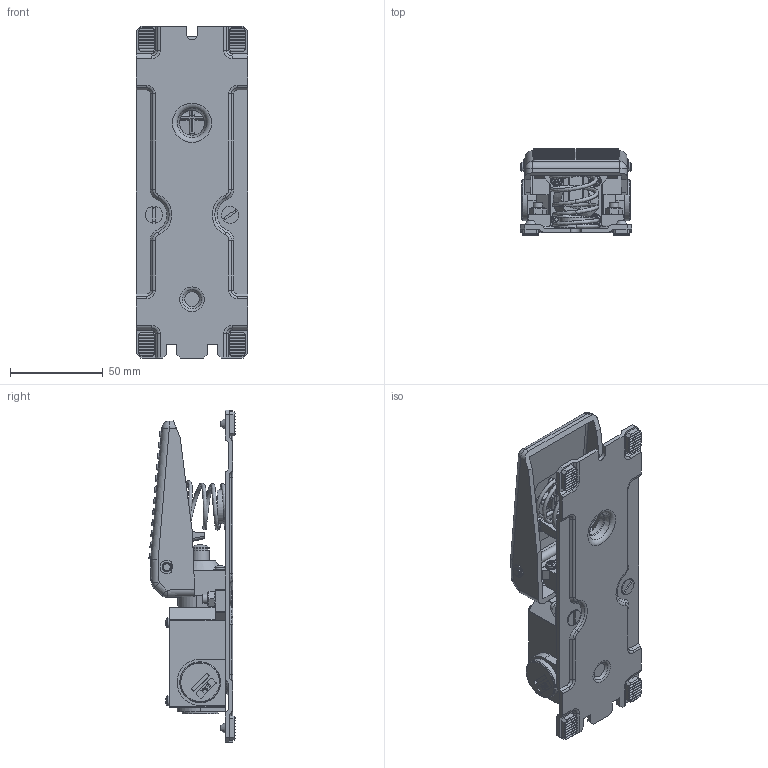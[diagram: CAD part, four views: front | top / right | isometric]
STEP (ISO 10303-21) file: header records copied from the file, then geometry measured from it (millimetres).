
FILE_DESCRIPTION(('Interruptor de Pedal Industrial'),'2;1');
FILE_NAME('E:\WorkFolder\Bibl\3DWeb\Serie\SK\kp_sk_sk1_step.stp','2015-03-27T14:05:31',('DIE'),('KAP Componentes Eletricos Ltda.'),'Autodesk Inventor 2011','Autodesk Inventor 2011','Direitos reservados. Proibido reproducao, cedencia ou revelacao de conteudo a terceiros, salvo com autorizacao.');
FILE_SCHEMA(('AUTOMOTIVE_DESIGN { 1 0 10303 214 1 1 1 1 }'));
Length unit declared in the file: millimetre
Products named in the file (1): SK1_Step
Bounding box: 60 x 46.43 x 179 mm (x, y, z)
Volume: 154054.8 mm3; surface area: 66293.1 mm2
Topology: 2 solids, 12 shells, 1454 faces, 3902 edges, 2529 vertices
Faces by surface type: plane 875, cylinder 296, cone 165, torus 74, sphere 30, bspline 14
Full cylindrical faces by diameter (mm): 2.6 x8, 2.7 x4, 3.2 x2, 3.3 x4, 3.6 x8, 4.5 x4, 4.763 x4, 5 x7, 5.2 x2, 6.2 x6, 7 x2, 8.6 x1, 9.525 x2, 10 x1, 10.8 x1, 13.44 x1, 16 x1, 18 x1, 19.5 x1, 22 x2
Entity records: 45905 total; most frequent: CARTESIAN_POINT 9972, DIRECTION 7524, ORIENTED_EDGE 7370, EDGE_CURVE 3685, AXIS2_PLACEMENT_3D 2640, VERTEX_POINT 2463, VECTOR 2244, LINE 2244
